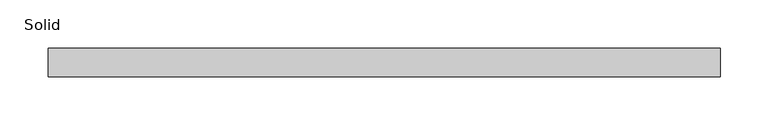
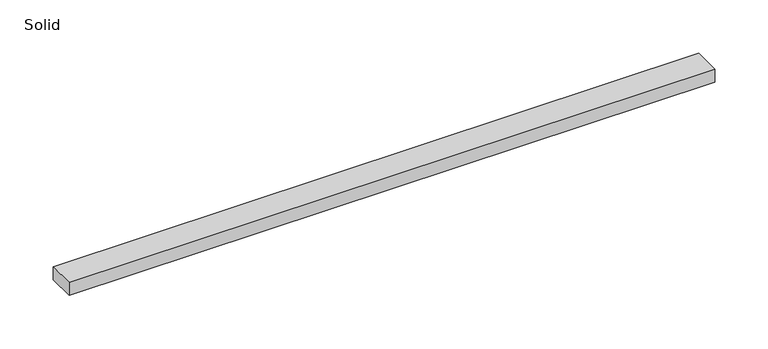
"""IFC4 building model written with IfcOpenShell, lengths in millimetres: sanitary terminal geometry, ZZZ_do not use_PF_ST_grating for showerdrain s_Aco : Solid."""

from ifc_helpers import new_model, si_unit, frame, origin, place, context, project, spatial, polyline, outline, extrude, source, transform, mapped, element, save


def solid_160a1f14(model_context):
    return source(origin(), model_context, "Body", "SweptSolid", [
        extrude(outline(polyline([(350.0, 15.0), (350.0, -15.0), (-350.0, -15.0), (-350.0, 15.0), (350.0, 15.0)])), frame((0.0, 0.0, -15.0), z_axis=(0.0, 0.0, 1.0), x_axis=(1.0, 0.0, 0.0)), (0.0, 0.0, 1.0), 15.0),
    ])


if __name__ == "__main__":
    model = new_model("IFC4")
    model_context = context("Model", 3, world=origin())
    ifc_project = project(units=[si_unit("LENGTHUNIT", "METRE", prefix="MILLI")], contexts=[model_context])
    site = spatial("IfcSite", under=ifc_project)
    building = spatial("IfcBuilding", under=site)
    placement = place(None, origin())
    solid_shape = solid_160a1f14(model_context)
    element("IfcSanitaryTerminal", 1, ObjectType="ZZZ_do not use_PF_ST_grating for showerdrain s_Aco : Solid", at=placement, inside=building, context=model_context, shape_type="MappedRepresentation", body=[
        mapped(solid_shape, transform((0.0, 0.0, 0.0), x_axis=(1.0, 0.0, 0.0), y_axis=(0.0, 1.0, 0.0), z_axis=(0.0, 0.0, 1.0))),
    ])
    save(model, "model.ifc")
